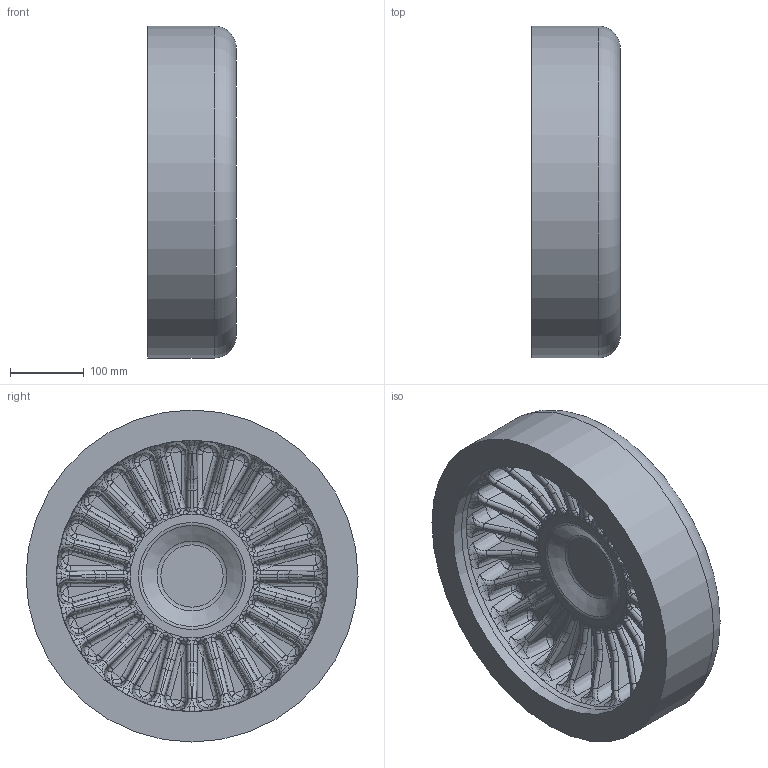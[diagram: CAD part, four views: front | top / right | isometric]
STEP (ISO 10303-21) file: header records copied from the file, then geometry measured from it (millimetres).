
FILE_DESCRIPTION(/* description */ ('Unknown'),/* implementation_level */ '2;1');
FILE_NAME(/* name */ 'CAP450C',/* time_stamp */ '2022-05-16T09:34:24+02:00',/* author */ ('Unknown'),/* organization */ ('Unknown'),/* preprocessor_version */ 'ST-DEVELOPER v18.1',/* originating_system */ 'Solid Edge',/* authorisation */ 'Unknown');
FILE_SCHEMA (('AUTOMOTIVE_DESIGN {1 0 10303 214 3 1 1}'));
Products named in the file (1): CAP450C
Bounding box: 120 x 450 x 450 mm (x, y, z)
Volume: 11774635.4 mm3; surface area: 620273.8 mm2
Topology: 1 solids, 1 shells, 877 faces, 2063 edges, 1117 vertices
Faces by surface type: bspline 553, cylinder 170, plane 124, torus 28, cone 2
Full cylindrical faces by diameter (mm): 368.2 x1, 450 x1
Entity records: 39590 total; most frequent: CARTESIAN_POINT 24016, ORIENTED_EDGE 3962, DIRECTION 2302, EDGE_CURVE 1981, VERTEX_POINT 1116, AXIS2_PLACEMENT_3D 983, B_SPLINE_CURVE_WITH_KNOTS 891, EDGE_LOOP 887
